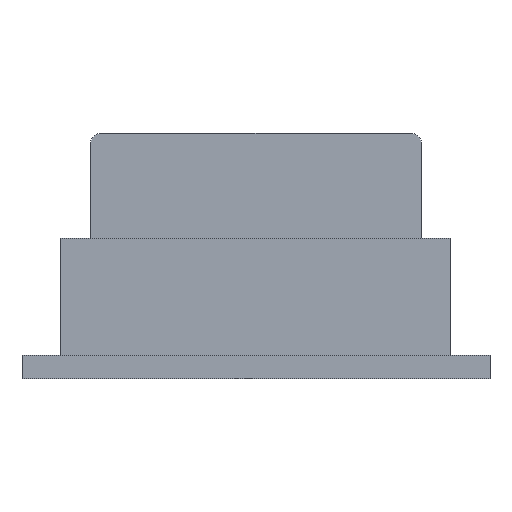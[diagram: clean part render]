
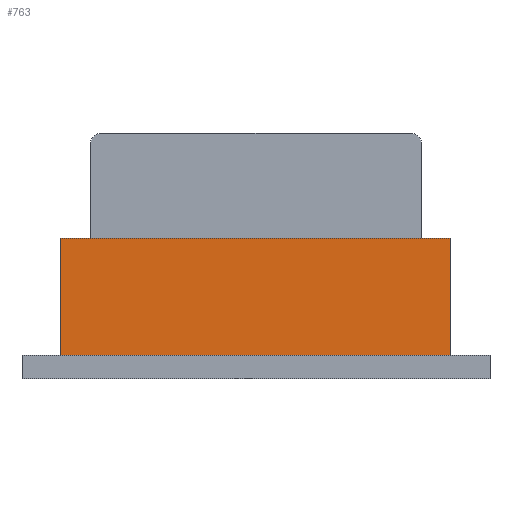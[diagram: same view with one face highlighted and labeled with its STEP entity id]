
A CAD part, front view. The second image highlights one B-rep face of the part: STEP entity #763.
In plain terms, the highlighted planar face has unit normal (0, -1, 0).
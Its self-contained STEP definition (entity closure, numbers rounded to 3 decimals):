
#148 = PLANE('',#149);
#149 = AXIS2_PLACEMENT_3D('',#150,#151,#152);
#150 = CARTESIAN_POINT('',(-60.,-30.,6.));
#151 = DIRECTION('',(0.,0.,1.));
#152 = DIRECTION('',(1.,0.,-0.));
#323 = VERTEX_POINT('',#324);
#324 = CARTESIAN_POINT('',(-50.,-10.,6.));
#340 = PLANE('',#341);
#341 = AXIS2_PLACEMENT_3D('',#342,#343,#344);
#342 = CARTESIAN_POINT('',(-50.,-10.,6.));
#343 = DIRECTION('',(1.,0.,0.));
#344 = DIRECTION('',(0.,0.,1.));
#381 = VERTEX_POINT('',#382);
#382 = CARTESIAN_POINT('',(50.,-10.,6.));
#396 = PLANE('',#397);
#397 = AXIS2_PLACEMENT_3D('',#398,#399,#400);
#398 = CARTESIAN_POINT('',(50.,-10.,6.));
#399 = DIRECTION('',(1.,0.,0.));
#400 = DIRECTION('',(0.,0.,1.));
#408 = EDGE_CURVE('',#323,#381,#409,.T.);
#409 = SURFACE_CURVE('',#410,(#414,#421),.PCURVE_S1.);
#410 = LINE('',#411,#412);
#411 = CARTESIAN_POINT('',(-50.,-10.,6.));
#412 = VECTOR('',#413,1.);
#413 = DIRECTION('',(1.,0.,0.));
#414 = PCURVE('',#148,#415);
#415 = DEFINITIONAL_REPRESENTATION('',(#416),#420);
#416 = LINE('',#417,#418);
#417 = CARTESIAN_POINT('',(10.,20.));
#418 = VECTOR('',#419,1.);
#419 = DIRECTION('',(1.,0.));
#420 = ( GEOMETRIC_REPRESENTATION_CONTEXT(2) 
PARAMETRIC_REPRESENTATION_CONTEXT() REPRESENTATION_CONTEXT('2D SPACE',''
  ) );
#421 = PCURVE('',#422,#427);
#422 = PLANE('',#423);
#423 = AXIS2_PLACEMENT_3D('',#424,#425,#426);
#424 = CARTESIAN_POINT('',(-50.,-10.,6.));
#425 = DIRECTION('',(0.,1.,0.));
#426 = DIRECTION('',(0.,-0.,1.));
#427 = DEFINITIONAL_REPRESENTATION('',(#428),#432);
#428 = LINE('',#429,#430);
#429 = CARTESIAN_POINT('',(0.,0.));
#430 = VECTOR('',#431,1.);
#431 = DIRECTION('',(0.,1.));
#432 = ( GEOMETRIC_REPRESENTATION_CONTEXT(2) 
PARAMETRIC_REPRESENTATION_CONTEXT() REPRESENTATION_CONTEXT('2D SPACE',''
  ) );
#642 = EDGE_CURVE('',#323,#643,#645,.T.);
#643 = VERTEX_POINT('',#644);
#644 = CARTESIAN_POINT('',(-50.,-10.,36.));
#645 = SURFACE_CURVE('',#646,(#650,#657),.PCURVE_S1.);
#646 = LINE('',#647,#648);
#647 = CARTESIAN_POINT('',(-50.,-10.,6.));
#648 = VECTOR('',#649,1.);
#649 = DIRECTION('',(0.,0.,1.));
#650 = PCURVE('',#340,#651);
#651 = DEFINITIONAL_REPRESENTATION('',(#652),#656);
#652 = LINE('',#653,#654);
#653 = CARTESIAN_POINT('',(0.,0.));
#654 = VECTOR('',#655,1.);
#655 = DIRECTION('',(1.,0.));
#656 = ( GEOMETRIC_REPRESENTATION_CONTEXT(2) 
PARAMETRIC_REPRESENTATION_CONTEXT() REPRESENTATION_CONTEXT('2D SPACE',''
  ) );
#657 = PCURVE('',#422,#658);
#658 = DEFINITIONAL_REPRESENTATION('',(#659),#663);
#659 = LINE('',#660,#661);
#660 = CARTESIAN_POINT('',(0.,0.));
#661 = VECTOR('',#662,1.);
#662 = DIRECTION('',(1.,0.));
#663 = ( GEOMETRIC_REPRESENTATION_CONTEXT(2) 
PARAMETRIC_REPRESENTATION_CONTEXT() REPRESENTATION_CONTEXT('2D SPACE',''
  ) );
#703 = PLANE('',#704);
#704 = AXIS2_PLACEMENT_3D('',#705,#706,#707);
#705 = CARTESIAN_POINT('',(-50.,-10.,36.));
#706 = DIRECTION('',(0.,0.,1.));
#707 = DIRECTION('',(1.,0.,-0.));
#763 = ADVANCED_FACE('',(#764),#422,.F.);
#764 = FACE_BOUND('',#765,.F.);
#765 = EDGE_LOOP('',(#766,#767,#768,#791));
#766 = ORIENTED_EDGE('',*,*,#408,.F.);
#767 = ORIENTED_EDGE('',*,*,#642,.T.);
#768 = ORIENTED_EDGE('',*,*,#769,.T.);
#769 = EDGE_CURVE('',#643,#770,#772,.T.);
#770 = VERTEX_POINT('',#771);
#771 = CARTESIAN_POINT('',(50.,-10.,36.));
#772 = SURFACE_CURVE('',#773,(#777,#784),.PCURVE_S1.);
#773 = LINE('',#774,#775);
#774 = CARTESIAN_POINT('',(-50.,-10.,36.));
#775 = VECTOR('',#776,1.);
#776 = DIRECTION('',(1.,0.,0.));
#777 = PCURVE('',#422,#778);
#778 = DEFINITIONAL_REPRESENTATION('',(#779),#783);
#779 = LINE('',#780,#781);
#780 = CARTESIAN_POINT('',(30.,0.));
#781 = VECTOR('',#782,1.);
#782 = DIRECTION('',(0.,1.));
#783 = ( GEOMETRIC_REPRESENTATION_CONTEXT(2) 
PARAMETRIC_REPRESENTATION_CONTEXT() REPRESENTATION_CONTEXT('2D SPACE',''
  ) );
#784 = PCURVE('',#703,#785);
#785 = DEFINITIONAL_REPRESENTATION('',(#786),#790);
#786 = LINE('',#787,#788);
#787 = CARTESIAN_POINT('',(0.,0.));
#788 = VECTOR('',#789,1.);
#789 = DIRECTION('',(1.,0.));
#790 = ( GEOMETRIC_REPRESENTATION_CONTEXT(2) 
PARAMETRIC_REPRESENTATION_CONTEXT() REPRESENTATION_CONTEXT('2D SPACE',''
  ) );
#791 = ORIENTED_EDGE('',*,*,#792,.F.);
#792 = EDGE_CURVE('',#381,#770,#793,.T.);
#793 = SURFACE_CURVE('',#794,(#798,#805),.PCURVE_S1.);
#794 = LINE('',#795,#796);
#795 = CARTESIAN_POINT('',(50.,-10.,6.));
#796 = VECTOR('',#797,1.);
#797 = DIRECTION('',(0.,0.,1.));
#798 = PCURVE('',#422,#799);
#799 = DEFINITIONAL_REPRESENTATION('',(#800),#804);
#800 = LINE('',#801,#802);
#801 = CARTESIAN_POINT('',(0.,100.));
#802 = VECTOR('',#803,1.);
#803 = DIRECTION('',(1.,0.));
#804 = ( GEOMETRIC_REPRESENTATION_CONTEXT(2) 
PARAMETRIC_REPRESENTATION_CONTEXT() REPRESENTATION_CONTEXT('2D SPACE',''
  ) );
#805 = PCURVE('',#396,#806);
#806 = DEFINITIONAL_REPRESENTATION('',(#807),#811);
#807 = LINE('',#808,#809);
#808 = CARTESIAN_POINT('',(0.,0.));
#809 = VECTOR('',#810,1.);
#810 = DIRECTION('',(1.,0.));
#811 = ( GEOMETRIC_REPRESENTATION_CONTEXT(2) 
PARAMETRIC_REPRESENTATION_CONTEXT() REPRESENTATION_CONTEXT('2D SPACE',''
  ) );
